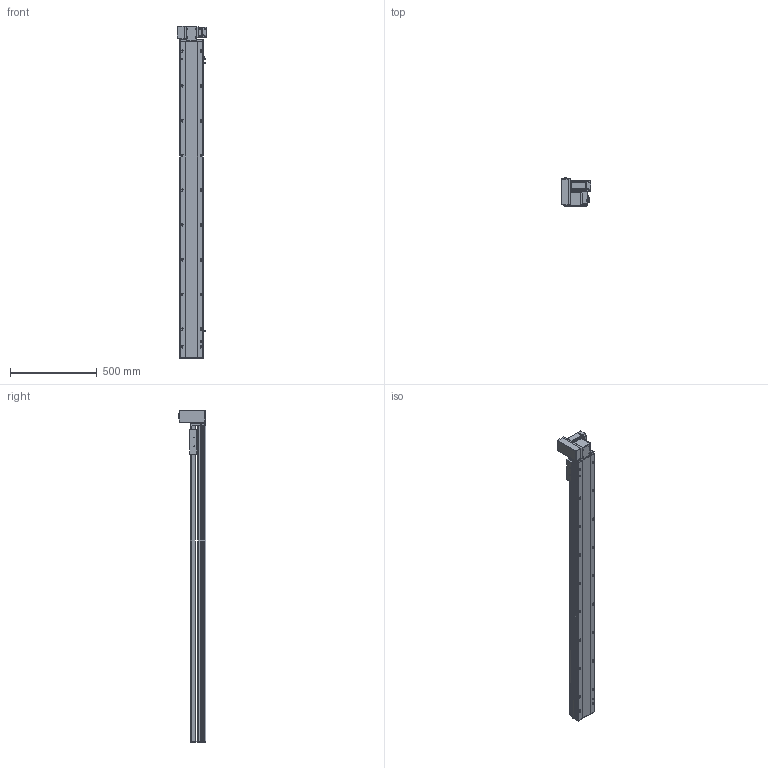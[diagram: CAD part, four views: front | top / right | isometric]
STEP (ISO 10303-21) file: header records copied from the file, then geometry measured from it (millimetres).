
FILE_DESCRIPTION (( 'STEP AP214' ), '1' );
FILE_NAME ('TPT14M-L40-1550-LU-T40-C4.STEP', '2023-03-06T01:16:06', ( '' ), ( '' ), 'SwSTEP 2.0', 'SolidWorks 2020', '' );
FILE_SCHEMA (( 'AUTOMOTIVE_DESIGN' ));
Length unit declared in the file: millimetre
Products named in the file (9): 葩璃 TPT14-L-002 奻裔MZ-135-05^TPT14M-L40-LU-T40-C4; hexagon head bolts-full thread gb_GB_FASTENER_BOLT_STBAB A M5X16-N; 葩璃 TPT14-L-009 萇儂啣^TPT14M-L40-LU-T40-C4_400W; 葩璃 TPT14-L-005 賑釱MZ-135-07^TPT14M-L40-LU-T40-C4; TPT14M-L40-1550-LU-T40-C4; 葩璃 侂狟400W^TPT14M-L40-LU-T40-C4; 葩璃 TPT14-L-001 菁釱MZ-135-01^TPT14M-L40-LU-T40-C4; 葩璃 pm-t65-672^TPT14M-L40-LU-T40-C4; 葩璃 TPT14-L-007 々湍釱MZ-169x88^TPT14M-L40-LU-T40-C4_YTB14M
Assembly tree (10 placements, depth 2):
  TPT14M-L40-1550-LU-T40-C4
    葩璃 TPT14-L-001 菁釱MZ-135-01^TPT14M-L40-LU-T40-C4
    葩璃 TPT14-L-002 奻裔MZ-135-05^TPT14M-L40-LU-T40-C4
    葩璃 TPT14-L-005 賑釱MZ-135-07^TPT14M-L40-LU-T40-C4
    葩璃 TPT14-L-007 々湍釱MZ-169x88^TPT14M-L40-LU-T40-C4_YTB14M
    葩璃 TPT14-L-009 萇儂啣^TPT14M-L40-LU-T40-C4_400W
    葩璃 pm-t65-672^TPT14M-L40-LU-T40-C4  x3
    葩璃 侂狟400W^TPT14M-L40-LU-T40-C4
    hexagon head bolts-full thread gb_GB_FASTENER_BOLT_STBAB A M5X16-N
Bounding box: 170.5 x 160.85 x 1910.5 mm (x, y, z)
Volume: 11824349.2 mm3; surface area: 1727614.1 mm2
Topology: 18 solids, 18 shells, 1494 faces, 3905 edges, 2488 vertices
Faces by surface type: plane 774, cylinder 540, cone 154, bspline 26
Entity records: 40820 total; most frequent: CARTESIAN_POINT 7502, DIRECTION 6764, ORIENTED_EDGE 6346, EDGE_CURVE 3173, AXIS2_PLACEMENT_3D 2406, VERTEX_POINT 2064, LINE 1952, VECTOR 1952
